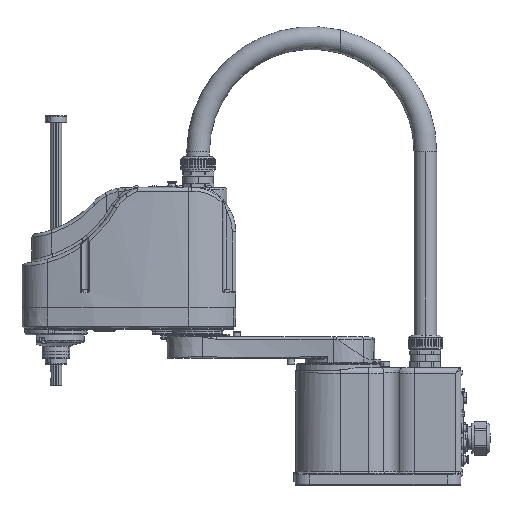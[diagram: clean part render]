
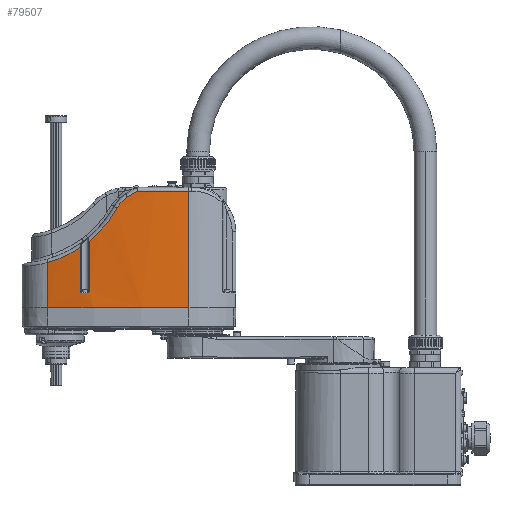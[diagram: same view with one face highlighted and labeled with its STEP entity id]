
A CAD part, top view. The second image highlights one B-rep face of the part: STEP entity #79507.
In plain terms, the highlighted cylindrical face has radius 603 mm (diameter 1206 mm), a partial arc.
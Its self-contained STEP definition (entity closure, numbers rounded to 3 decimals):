
#61033=CARTESIAN_POINT('',(-261.149,249.3,
-537.35));
#61034=DIRECTION('',(0.,1.,0.));
#61035=DIRECTION('',(-0.25,0.,0.968));
#61036=AXIS2_PLACEMENT_3D('',#61033,#61034,#61035);
#61038=CARTESIAN_POINT('',(-412.009,313.081,
46.474));
#61039=CARTESIAN_POINT('',(-403.43,315.518,48.69));
#61040=CARTESIAN_POINT('',(-387.506,321.472,
52.42));
#61041=CARTESIAN_POINT('',(-372.566,329.865,
55.308));
#61042=CARTESIAN_POINT('',(-365.673,334.463,
56.521));
#61044=DIRECTION('',(0.,-1.,0.));
#61045=VECTOR('',#61044,62.163);
#61046=CARTESIAN_POINT('',(-365.673,334.463,
56.521));
#61047=LINE('',#61046,#61045);
#61048=CARTESIAN_POINT('',(-365.673,272.3,
56.521));
#61049=CARTESIAN_POINT('',(-365.673,272.169,
56.521));
#61050=CARTESIAN_POINT('',(-365.647,271.905,
56.526));
#61051=CARTESIAN_POINT('',(-365.55,271.588,
56.543));
#61052=CARTESIAN_POINT('',(-365.437,271.351,
56.563));
#61053=CARTESIAN_POINT('',(-365.3,271.124,
56.587));
#61054=CARTESIAN_POINT('',(-365.092,270.873,
56.624));
#61055=CARTESIAN_POINT('',(-364.834,270.663,
56.669));
#61056=CARTESIAN_POINT('',(-364.611,270.531,
56.707));
#61057=CARTESIAN_POINT('',(-364.434,270.448,
56.738));
#61058=CARTESIAN_POINT('',(-364.249,270.382,
56.77));
#61059=CARTESIAN_POINT('',(-363.996,270.319,
56.814));
#61060=CARTESIAN_POINT('',(-363.8,270.3,
56.848));
#61061=CARTESIAN_POINT('',(-363.67,270.3,56.871));
#61063=CARTESIAN_POINT('',(-355.657,270.3,58.198));
#61064=CARTESIAN_POINT('',(-355.528,270.3,
58.218));
#61065=CARTESIAN_POINT('',(-355.332,270.319,
58.249));
#61066=CARTESIAN_POINT('',(-355.078,270.382,
58.289));
#61067=CARTESIAN_POINT('',(-354.832,270.469,
58.328));
#61068=CARTESIAN_POINT('',(-354.6,270.592,
58.364));
#61069=CARTESIAN_POINT('',(-354.389,270.748,
58.397));
#61070=CARTESIAN_POINT('',(-354.243,270.878,
58.42));
#61071=CARTESIAN_POINT('',(-354.11,271.024,
58.441));
#61072=CARTESIAN_POINT('',(-353.991,271.183,
58.46));
#61073=CARTESIAN_POINT('',(-353.89,271.351,
58.475));
#61074=CARTESIAN_POINT('',(-353.777,271.588,
58.493));
#61075=CARTESIAN_POINT('',(-353.68,271.905,
58.508));
#61076=CARTESIAN_POINT('',(-353.653,272.168,
58.512));
#61077=CARTESIAN_POINT('',(-353.653,272.3,
58.512));
#61079=DIRECTION('',(0.,1.,0.));
#61080=VECTOR('',#61079,70.997);
#61081=CARTESIAN_POINT('',(-353.653,272.3,
58.512));
#61082=LINE('',#61081,#61080);
#61083=CARTESIAN_POINT('',(-353.653,343.297,
58.512));
#61084=CARTESIAN_POINT('',(-351.756,344.829,
58.807));
#61085=CARTESIAN_POINT('',(-347.914,348.077,
59.384));
#61086=CARTESIAN_POINT('',(-340.456,354.997,
60.432));
#61087=CARTESIAN_POINT('',(-331.738,364.317,
61.531));
#61088=CARTESIAN_POINT('',(-322.376,376.42,
62.555));
#61089=CARTESIAN_POINT('',(-316.882,385.099,
63.074));
#61090=CARTESIAN_POINT('',(-314.33,389.598,
63.3));
#61092=CARTESIAN_POINT('',(-314.33,389.598,
63.3));
#61093=CARTESIAN_POINT('',(-313.423,391.195,
63.38));
#61094=CARTESIAN_POINT('',(-311.428,394.276,
63.553));
#61095=CARTESIAN_POINT('',(-307.969,398.47,
63.833));
#61096=CARTESIAN_POINT('',(-304.706,401.622,
64.077));
#61097=CARTESIAN_POINT('',(-301.847,403.941,
64.276));
#61098=CARTESIAN_POINT('',(-300.363,405.01,
64.374));
#61099=CARTESIAN_POINT('',(-299.608,405.521,
64.422));
#61101=CARTESIAN_POINT('',(-299.608,405.521,
64.422));
#61102=CARTESIAN_POINT('',(-297.276,407.101,
64.571));
#61103=CARTESIAN_POINT('',(-293.665,409.274,
64.781));
#61104=CARTESIAN_POINT('',(-288.698,411.91,
65.024));
#61105=CARTESIAN_POINT('',(-286.182,413.171,
65.131));
#61106=CARTESIAN_POINT('',(-284.922,413.8,
65.181));
#61121=DIRECTION('',(0.,1.,0.));
#61122=VECTOR('',#61121,164.5);
#61123=CARTESIAN_POINT('',(-212.875,249.3,
63.714));
#61124=LINE('',#61123,#61122);
#61199=CARTESIAN_POINT('',(-261.149,413.8,-537.35));
#61200=DIRECTION('',(0.,-1.,0.));
#61201=DIRECTION('',(0.08,0.,0.997));
#61202=AXIS2_PLACEMENT_3D('',#61199,#61200,#61201);
#68285=DIRECTION('',(0.,-1.,0.));
#68286=VECTOR('',#68285,63.781);
#68287=CARTESIAN_POINT('',(-412.009,313.081,
46.474));
#68288=LINE('',#68287,#68286);
#70731=CARTESIAN_POINT('',(-261.149,270.3,-537.35));
#70732=DIRECTION('',(0.,-1.,0.));
#70733=DIRECTION('',(-0.157,0.,0.988));
#70734=AXIS2_PLACEMENT_3D('',#70731,#70732,#70733);
#77050=VERTEX_POINT('',#61063);
#77051=VERTEX_POINT('',#61077);
#77052=VERTEX_POINT('',#61038);
#77053=VERTEX_POINT('',#61042);
#77054=CARTESIAN_POINT('',(-365.673,272.3,
56.521));
#77055=VERTEX_POINT('',#77054);
#77056=VERTEX_POINT('',#61061);
#77057=CARTESIAN_POINT('',(-353.653,343.297,
58.512));
#77058=VERTEX_POINT('',#77057);
#77059=VERTEX_POINT('',#61090);
#77060=VERTEX_POINT('',#61099);
#77061=VERTEX_POINT('',#61106);
#77062=CARTESIAN_POINT('',(-212.875,413.8,63.714));
#77063=VERTEX_POINT('',#77062);
#78997=CARTESIAN_POINT('',(-412.009,249.3,
46.474));
#78998=CARTESIAN_POINT('',(-212.875,249.3,
63.714));
#78999=VERTEX_POINT('',#78997);
#79000=VERTEX_POINT('',#78998);
#79475=CARTESIAN_POINT('',(-261.149,249.3,-537.35));
#79476=DIRECTION('',(0.,1.,0.));
#79477=DIRECTION('',(-1.,0.,0.));
#79478=AXIS2_PLACEMENT_3D('',#79475,#79476,#79477);
#79479=CYLINDRICAL_SURFACE('',#79478,603.);
#79481=ORIENTED_EDGE('',*,*,#79480,.F.);
#79483=ORIENTED_EDGE('',*,*,#79482,.F.);
#79485=ORIENTED_EDGE('',*,*,#79484,.T.);
#79487=ORIENTED_EDGE('',*,*,#79486,.T.);
#79489=ORIENTED_EDGE('',*,*,#79488,.T.);
#79491=ORIENTED_EDGE('',*,*,#79490,.F.);
#79492=ORIENTED_EDGE('',*,*,#79465,.T.);
#79494=ORIENTED_EDGE('',*,*,#79493,.T.);
#79496=ORIENTED_EDGE('',*,*,#79495,.T.);
#79498=ORIENTED_EDGE('',*,*,#79497,.T.);
#79500=ORIENTED_EDGE('',*,*,#79499,.T.);
#79502=ORIENTED_EDGE('',*,*,#79501,.F.);
#79504=ORIENTED_EDGE('',*,*,#79503,.F.);
#79505=EDGE_LOOP('',(#79481,#79483,#79485,#79487,#79489,#79491,#79492,#79494,
#79496,#79498,#79500,#79502,#79504));
#79506=FACE_OUTER_BOUND('',#79505,.F.);
#79507=ADVANCED_FACE('',(#79506),#79479,.T.);
#61037=CIRCLE('',#61036,603.);
#61043=B_SPLINE_CURVE_WITH_KNOTS('',3,(#61038,#61039,#61040,#61041,#61042),
.UNSPECIFIED.,.F.,.F.,(4,1,4),(0.,0.522,1.),.UNSPECIFIED.);
#61062=B_SPLINE_CURVE_WITH_KNOTS('',3,(#61048,#61049,#61050,#61051,#61052,
#61053,#61054,#61055,#61056,#61057,#61058,#61059,#61060,#61061),.UNSPECIFIED.,
.F.,.F.,(4,1,1,1,1,1,1,1,1,1,1,4),(0.,0.125,0.25,
0.313,0.375,0.5,0.625,
0.688,0.75,0.813,0.875,1.),
.UNSPECIFIED.);
#61078=B_SPLINE_CURVE_WITH_KNOTS('',3,(#61063,#61064,#61065,#61066,#61067,
#61068,#61069,#61070,#61071,#61072,#61073,#61074,#61075,#61076,#61077),
.UNSPECIFIED.,.F.,.F.,(4,1,1,1,1,1,1,1,1,1,1,1,4),(0.,0.125,
0.187,0.25,0.375,0.437,
0.5,0.562,0.625,0.687,
0.75,0.875,1.),.UNSPECIFIED.);
#61091=B_SPLINE_CURVE_WITH_KNOTS('',3,(#61083,#61084,#61085,#61086,#61087,
#61088,#61089,#61090),.UNSPECIFIED.,.F.,.F.,(4,1,1,1,1,4),(0.,
0.12,0.245,0.497,0.748,1.),
.UNSPECIFIED.);
#61100=B_SPLINE_CURVE_WITH_KNOTS('',3,(#61092,#61093,#61094,#61095,#61096,
#61097,#61098,#61099),.UNSPECIFIED.,.F.,.F.,(4,1,1,1,1,4),(0.,
0.25,0.5,0.75,0.875,1.),
.UNSPECIFIED.);
#61107=B_SPLINE_CURVE_WITH_KNOTS('',3,(#61101,#61102,#61103,#61104,#61105,
#61106),.UNSPECIFIED.,.F.,.F.,(4,1,1,4),(0.,0.5,
0.75,1.),.UNSPECIFIED.);
#61203=CIRCLE('',#61202,603.);
#70735=CIRCLE('',#70734,603.);
#79465=EDGE_CURVE('',#77050,#77051,#61078,.T.);
#79480=EDGE_CURVE('',#78999,#79000,#61037,.T.);
#79482=EDGE_CURVE('',#77052,#78999,#68288,.T.);
#79484=EDGE_CURVE('',#77052,#77053,#61043,.T.);
#79486=EDGE_CURVE('',#77053,#77055,#61047,.T.);
#79488=EDGE_CURVE('',#77055,#77056,#61062,.T.);
#79490=EDGE_CURVE('',#77050,#77056,#70735,.T.);
#79493=EDGE_CURVE('',#77051,#77058,#61082,.T.);
#79495=EDGE_CURVE('',#77058,#77059,#61091,.T.);
#79497=EDGE_CURVE('',#77059,#77060,#61100,.T.);
#79499=EDGE_CURVE('',#77060,#77061,#61107,.T.);
#79501=EDGE_CURVE('',#77063,#77061,#61203,.T.);
#79503=EDGE_CURVE('',#79000,#77063,#61124,.T.);
